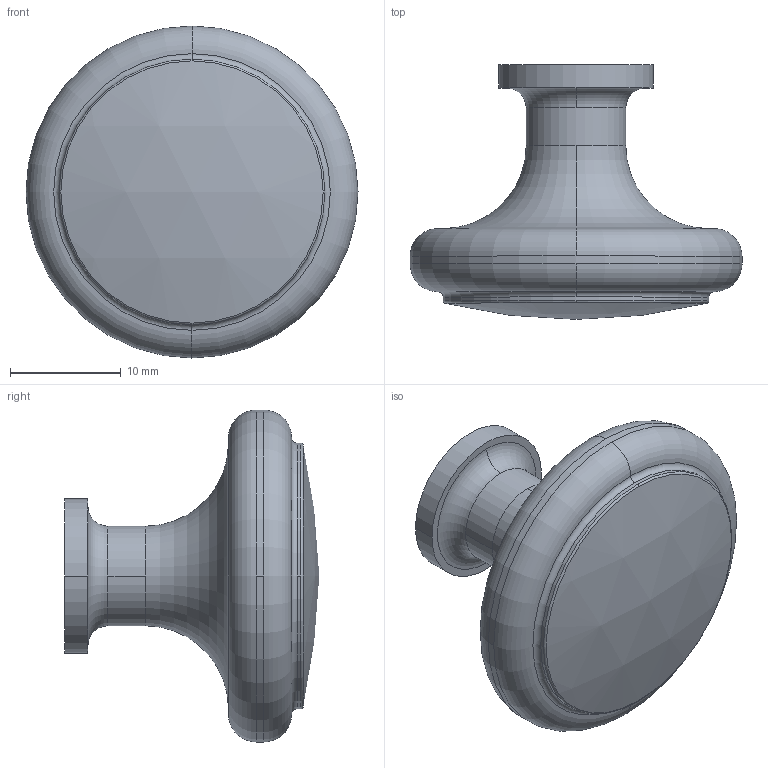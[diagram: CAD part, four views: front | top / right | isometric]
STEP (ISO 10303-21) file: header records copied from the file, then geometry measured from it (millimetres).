
FILE_DESCRIPTION( ( '' ), '1' );
FILE_NAME( 'C:/Documents and Settings/Nikhil/Desktop/Nik/Done/9070575.stp', '2013-10-23T10:30:35', ( '' ), ( '' ), ' ', ' ', ' ' );
FILE_SCHEMA( ( 'automotive_design' ) );
Length unit declared in the file: millimetre
Products named in the file (1): 1
Bounding box: 30 x 23 x 30 mm (x, y, z)
Volume: 6078.2 mm3; surface area: 2477.3 mm2
Topology: 1 solids, 1 shells, 27 faces, 69 edges, 47 vertices
Faces by surface type: torus 12, cylinder 10, plane 4, sphere 1
Entity records: 1686 total; most frequent: DIRECTION 184, STYLED_ITEM 144, PRESENTATION_STYLE_ASSIGNMENT 144, CARTESIAN_POINT 144, COLOUR_RGB 144, ORIENTED_EDGE 138, AXIS2_PLACEMENT_3D 87, EDGE_CURVE 69
